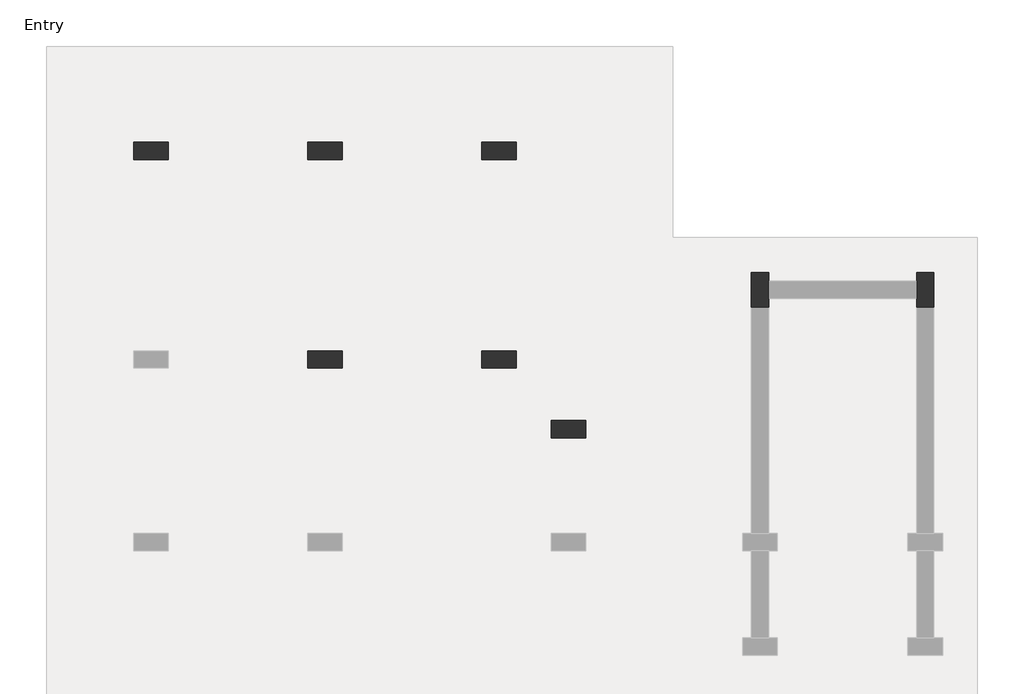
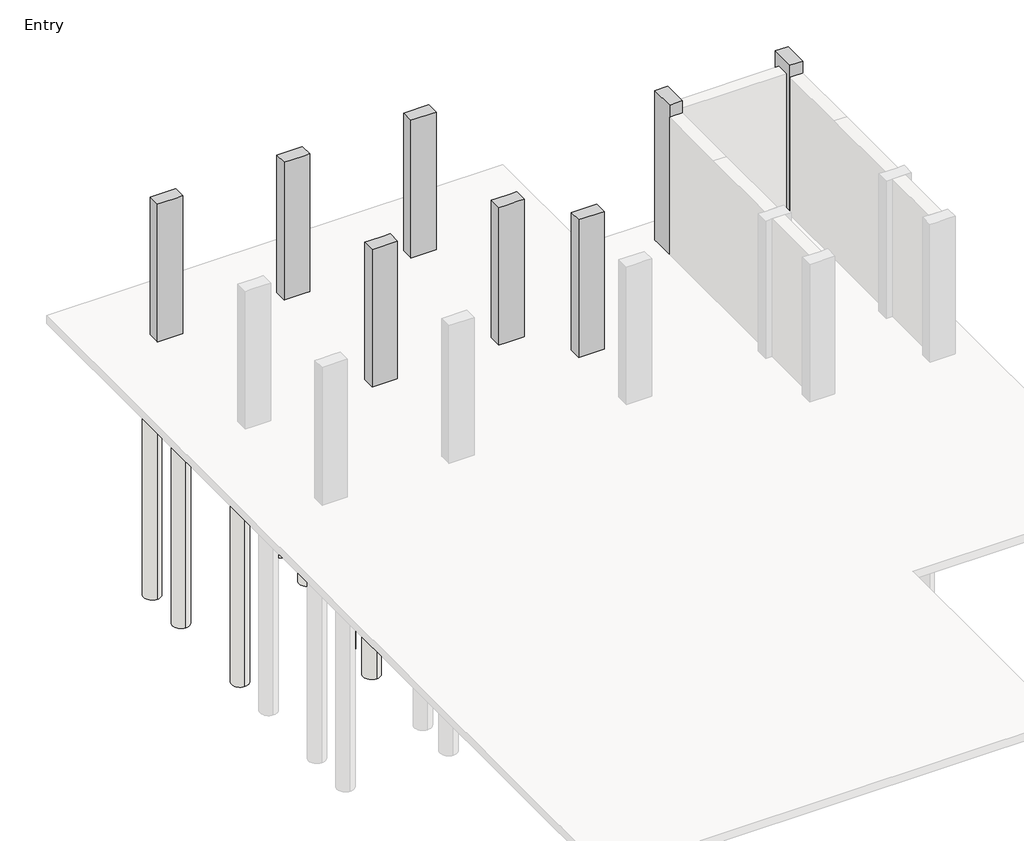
# One storey, part 3 of 3: 31 slabs, 16 columns, 3 footings.
"""IFC4 building model written with IfcOpenShell, lengths in millimetres."""

import ifcopenshell
import ifcopenshell.guid

model = None  # the IFC model being written
_history = None  # IfcOwnerHistory: only IFC2X3 demands one
_inside = {}  # id of a spatial element -> (the spatial element, [elements in it])
_under = {}  # id of a project, library or spatial element -> (it, [spatial elements below it])
_declared = {}  # id of a project -> (the project, [libraries it declares])
_typed = {}  # id of a type object -> (the type object, [elements of that type])
_made_of = {}  # id of a material, layer set ... -> (it, [elements and type objects made of it])


def new_model(schema):
    """Start an empty IFC model of exactly this schema.

    Asked for "IFC4X3", IfcOpenShell would pick the latest addendum, in which some entities
    have other attributes; the version numbers below select the first issue.
    IFC2X3 requires an IfcOwnerHistory on every rooted entity: one is made here for all.
    """
    global model, _history
    if schema == "IFC4X3":
        model = ifcopenshell.file(schema_version=(4, 3, 0, 0))
    else:
        model = ifcopenshell.file(schema=schema)
    _inside.clear()
    _under.clear()
    _declared.clear()
    _typed.clear()
    _made_of.clear()
    _history = None
    if model.schema == "IFC2X3":
        org = make("IfcOrganization", Name="unknown")
        user = make(
            "IfcPersonAndOrganization",
            ThePerson=make("IfcPerson", FamilyName="unknown"),
            TheOrganization=org,
        )
        app = make(
            "IfcApplication",
            ApplicationDeveloper=org,
            Version="unknown",
            ApplicationFullName="unknown",
            ApplicationIdentifier="unknown",
        )
        _history = make(
            "IfcOwnerHistory",
            OwningUser=user,
            OwningApplication=app,
            ChangeAction="ADDED",
            CreationDate=0,
        )
    return model


def make(cls, **values):
    """One entity of the class cls with the attributes given. An attribute that is None is left unset."""
    return model.create_entity(
        cls, **{name: value for name, value in values.items() if value is not None}
    )


def rooted(cls, **values):
    """An entity with a GlobalId (a new one), such as an element, a storey or a relation."""
    return make(cls, GlobalId=ifcopenshell.guid.new(), OwnerHistory=_history, **values)


def si_unit(unit_type, name, prefix=None):
    """IfcSIUnit, for example si_unit("LENGTHUNIT", "METRE", prefix="MILLI")."""
    return make("IfcSIUnit", UnitType=unit_type, Prefix=prefix, Name=name)


def assignment(units):
    """IfcUnitAssignment: the units of a project."""
    return None if units is None else make("IfcUnitAssignment", Units=units)


def point(xyz):
    """IfcCartesianPoint."""
    return None if xyz is None else make("IfcCartesianPoint", Coordinates=xyz)


def direction(xyz):
    """IfcDirection."""
    return None if xyz is None else make("IfcDirection", DirectionRatios=xyz)


def frame(location, z_axis=None, x_axis=None):
    """IfcAxis2Placement3D, a coordinate frame: its origin and axes. An axis left out is left unset."""
    return make(
        "IfcAxis2Placement3D",
        Location=point(location),
        Axis=direction(z_axis),
        RefDirection=direction(x_axis),
    )


def frame_2d(location, x_axis=None):
    """IfcAxis2Placement2D, a coordinate frame in the plane: its origin and x axis."""
    return make(
        "IfcAxis2Placement2D", Location=point(location), RefDirection=direction(x_axis)
    )


def origin():
    """The frame at (0, 0, 0) with its axes left unset."""
    return frame((0.0, 0.0, 0.0))


def place(relative_to, where):
    """IfcLocalPlacement: puts the frame where relative to a parent placement (None: the world)."""
    return make(
        "IfcLocalPlacement", PlacementRelTo=relative_to, RelativePlacement=where
    )


def context(
    kind, dimensions, precision=None, world=None, true_north=None, identifier=None
):
    """IfcGeometricRepresentationContext, for example the 3D "Model" context."""
    return make(
        "IfcGeometricRepresentationContext",
        ContextIdentifier=identifier,
        ContextType=kind,
        CoordinateSpaceDimension=dimensions,
        Precision=precision,
        WorldCoordinateSystem=world,
        TrueNorth=true_north,
    )


def project(units=None, contexts=None):
    """IfcProject with its units and contexts."""
    return rooted(
        "IfcProject",
        Name="project",
        RepresentationContexts=contexts,
        UnitsInContext=assignment(units),
    )


def spatial(cls, under=None, at=None, **own):
    """A site, building, storey or space (cls), placed at a placement, below another one or the project."""
    s = rooted(cls, ObjectPlacement=at, **own)
    if under is not None:
        _under.setdefault(under.id(), (under, []))[1].append(s)
    return s


def polyline(points):
    """IfcPolyline through the points."""
    return make("IfcPolyline", Points=[point(p) for p in points])


def circle_curve(where, radius):
    """IfcCircle in the frame where."""
    return make("IfcCircle", Position=where, Radius=radius)


def trimmed(basis, trim1, trim2, sense, master):
    """IfcTrimmedCurve: the piece of a basis curve between two trims."""
    return make(
        "IfcTrimmedCurve",
        BasisCurve=basis,
        Trim1=trim1,
        Trim2=trim2,
        SenseAgreement=sense,
        MasterRepresentation=master,
    )


def segment(curve, same_sense, transition):
    """IfcCompositeCurveSegment."""
    return make(
        "IfcCompositeCurveSegment",
        Transition=transition,
        SameSense=same_sense,
        ParentCurve=curve,
    )


def composite_curve(segments, self_intersect=None):
    """IfcCompositeCurve: segments joined end to end."""
    return make("IfcCompositeCurve", Segments=segments, SelfIntersect=self_intersect)


def outline(outer, holes=None, kind="AREA"):
    """IfcArbitraryClosedProfileDef: a profile drawn as a closed curve; with holes, ...WithVoids."""
    if holes is None:
        return make("IfcArbitraryClosedProfileDef", ProfileType=kind, OuterCurve=outer)
    return make(
        "IfcArbitraryProfileDefWithVoids",
        ProfileType=kind,
        OuterCurve=outer,
        InnerCurves=holes,
    )


def extrude(swept, where, along, depth):
    """IfcExtrudedAreaSolid: the profile swept, set in the frame where, extruded along a direction by depth."""
    return make(
        "IfcExtrudedAreaSolid",
        SweptArea=swept,
        Position=where,
        ExtrudedDirection=direction(along),
        Depth=depth,
    )


def faces_of(points, faces, orient=None, outer=None):
    """IfcFace entities. A face is a list of loops; a loop is a list of indices into points, from 0.

    orient and outer hold one flag for each loop. By default every Orientation is true, the
    first loop of a face is its IfcFaceOuterBound and the others are IfcFaceBound.
    """
    made = []
    for i, loops in enumerate(faces):
        bounds = []
        for j, loop in enumerate(loops):
            is_outer = j == 0 if outer is None else outer[i][j]
            bounds.append(
                make(
                    "IfcFaceOuterBound" if is_outer else "IfcFaceBound",
                    Bound=make("IfcPolyLoop", Polygon=[points[k] for k in loop]),
                    Orientation=True if orient is None else orient[i][j],
                )
            )
        made.append(make("IfcFace", Bounds=bounds))
    return made


def faceted_brep(points, faces, orient=None, outer=None, voids=None):
    """IfcFacetedBrep: a solid bounded by flat faces; with voids (closed shells), ...WithVoids."""
    shared = [point(p) for p in points]
    hull = make("IfcClosedShell", CfsFaces=faces_of(shared, faces, orient, outer))
    if voids is None:
        return make("IfcFacetedBrep", Outer=hull)
    return make(
        "IfcFacetedBrepWithVoids",
        Outer=hull,
        Voids=[
            make(cls, CfsFaces=faces_of(shared, fs, o, b)) for cls, fs, o, b in voids
        ],
    )


def shape(context_of_items, identifier, shape_type, items):
    """IfcShapeRepresentation: the items that make up one representation, for example the "Body"."""
    return make(
        "IfcShapeRepresentation",
        ContextOfItems=context_of_items,
        RepresentationIdentifier=identifier,
        RepresentationType=shape_type,
        Items=items,
    )


def made_of(thing, what):
    """Note that an element or type object is made of a material, layer set ...; save() writes the relation."""
    if what is not None:
        _made_of.setdefault(what.id(), (what, []))[1].append(thing)
    return thing


def element(
    cls,
    number,
    at=None,
    inside=None,
    cuts=None,
    type_object=None,
    material=None,
    context=None,
    identifier="Body",
    shape_type=None,
    held_by="IfcProductDefinitionShape",
    body=None,
    shapes=None,
    **own,
):
    """One element of the class cls, such as IfcWall. Its Tag is "e" and its number.

    at: its placement. inside: the storey or other place that contains it. cuts: it is an
    opening in that element (IfcRelVoidsElement). A single representation is given by context,
    identifier, shape_type and body (its items); several are given by shapes. held_by: the class
    of the entity that holds the representations. save() writes the other relations.
    """
    e = rooted(cls, Tag="e%d" % number, ObjectPlacement=at, **own)
    if body is not None:
        shapes = [shape(context, identifier, shape_type, body)]
    if shapes is not None:
        e.Representation = make(held_by, Representations=shapes)
    if inside is not None:
        _inside.setdefault(inside.id(), (inside, []))[1].append(e)
    if cuts is not None:
        rooted(
            "IfcRelVoidsElement", RelatingBuildingElement=cuts, RelatedOpeningElement=e
        )
    if type_object is not None:
        _typed.setdefault(type_object.id(), (type_object, []))[1].append(e)
    return made_of(e, material)


def aggregate(whole, parts):
    """IfcRelAggregates: a whole, such as a stair, and the parts it consists of."""
    return rooted("IfcRelAggregates", RelatingObject=whole, RelatedObjects=parts)


def save(model, path):
    """Write the relations noted so far, then the file.

    IfcRelAggregates (storeys below a building ...), IfcRelContainedInSpatialStructure (elements
    in a storey), IfcRelDefinesByType, IfcRelAssociatesMaterial and IfcRelDeclares: one each for
    every whole, place, type object, material and project.
    """
    for whole, parts in _under.values():
        aggregate(whole, parts)
    for where, things in _inside.values():
        rooted(
            "IfcRelContainedInSpatialStructure",
            RelatedElements=things,
            RelatingStructure=where,
        )
    for kind, things in _typed.values():
        rooted("IfcRelDefinesByType", RelatedObjects=things, RelatingType=kind)
    for what, things in _made_of.values():
        rooted("IfcRelAssociatesMaterial", RelatedObjects=things, RelatingMaterial=what)
    for by, libraries in _declared.values():
        rooted("IfcRelDeclares", RelatingContext=by, RelatedDefinitions=libraries)
    model.write(path)


model = new_model("IFC4")

# Units and contexts
model_context = context("Model", 3, world=origin())
ifc_project = project(units=[si_unit("LENGTHUNIT", "METRE", prefix="MILLI")], contexts=[model_context])

# Site, building, storey
site = spatial("IfcSite", under=ifc_project)
building = spatial("IfcBuilding", under=site)
storey = spatial("IfcBuildingStorey", under=building, Name="Entry", Elevation=0.0)

# Columns
placement = place(None, origin())
element("IfcColumn", 1, ObjectType="Concrete-Rectangular-Column : 12 x 24", at=placement, inside=storey, context=model_context, shape_type="Brep", body=[
    faceted_brep([(-15677.5554735, 14646.9867088, 0.0), (-15067.9554735, 14646.9867088, 0.0), (-15067.9554735, 14342.1867088, 0.0), (-15677.5554735, 14342.1867088, 0.0), (-15677.5554735, 14646.9867088, 3505.2), (-15067.9554735, 14646.9867088, 3505.2), (-15067.9554735, 14646.9867088, 2895.6), (-15067.9554735, 14342.1867088, 3505.2), (-15067.9554735, 14342.1867088, 2895.6), (-15220.3554735, 14342.1867088, 3505.2), (-15525.1554735, 14342.1867088, 3505.2), (-15677.5554735, 14342.1867088, 3505.2)], [[[0, 1, 2, 3]], [[4, 5, 6, 1, 0]], [[5, 7, 8, 2, 1, 6]], [[7, 9, 10, 11, 3, 2, 8]], [[11, 4, 0, 3]], [[4, 11, 10, 9, 7, 5]]]),
])
element("IfcColumn", 2, ObjectType="Concrete-Rectangular-Column : 12 x 24", at=placement, inside=storey, context=model_context, shape_type="Brep", body=[
    faceted_brep([(-12629.5554735, 14646.9867088, 0.0), (-12019.9554735, 14646.9867088, 0.0), (-12019.9554735, 14342.1867088, 0.0), (-12629.5554735, 14342.1867088, 0.0), (-12629.5554735, 14646.9867088, 3505.2), (-12019.9554735, 14646.9867088, 3505.2), (-12019.9554735, 14646.9867088, 2895.6), (-12629.5554735, 14646.9867088, 2895.6), (-12019.9554735, 14342.1867088, 3505.2), (-12019.9554735, 14342.1867088, 2895.6), (-12172.3554735, 14342.1867088, 3505.2), (-12477.1554735, 14342.1867088, 3505.2), (-12629.5554735, 14342.1867088, 3505.2), (-12629.5554735, 14342.1867088, 2895.6)], [[[0, 1, 2, 3]], [[4, 5, 6, 1, 0, 7]], [[5, 8, 9, 2, 1, 6]], [[8, 10, 11, 12, 13, 3, 2, 9]], [[12, 4, 7, 0, 3, 13]], [[4, 12, 11, 10, 8, 5]]]),
])
element("IfcColumn", 3, ObjectType="Concrete-Rectangular-Column : 12 x 24", at=placement, inside=storey, context=model_context, shape_type="Brep", body=[
    faceted_brep([(-9581.5554735, 14646.9867088, 0.0), (-8971.9554735, 14646.9867088, 0.0), (-8971.9554735, 14342.1867088, 0.0), (-9581.5554735, 14342.1867088, 0.0), (-9581.5554735, 14646.9867088, 3505.2), (-8971.9554735, 14646.9867088, 3505.2), (-9581.5554735, 14646.9867088, 2895.6), (-8971.9554735, 14342.1867088, 3505.2), (-9124.3554735, 14342.1867088, 3505.2), (-9429.1554735, 14342.1867088, 3505.2), (-9581.5554735, 14342.1867088, 3505.2), (-9581.5554735, 14342.1867088, 2895.6)], [[[0, 1, 2, 3]], [[4, 5, 1, 0, 6]], [[5, 7, 2, 1]], [[7, 8, 9, 10, 11, 3, 2]], [[10, 4, 6, 0, 3, 11]], [[4, 10, 9, 8, 7, 5]]]),
])
element("IfcColumn", 4, ObjectType="Concrete-Rectangular-Column : 12 x 24", at=placement, inside=storey, context=model_context, shape_type="Brep", body=[
    faceted_brep([(-12629.5554735, 10989.3867088, 0.0), (-12019.9554735, 10989.3867088, 0.0), (-12019.9554735, 10684.5867088, 0.0), (-12629.5554735, 10684.5867088, 0.0), (-12629.5554735, 10989.3867088, 3505.2), (-12477.1554735, 10989.3867088, 3505.2), (-12172.3554735, 10989.3867088, 3505.2), (-12019.9554735, 10989.3867088, 3505.2), (-12019.9554735, 10989.3867088, 2895.6), (-12629.5554735, 10989.3867088, 2895.6), (-12019.9554735, 10684.5867088, 3505.2), (-12019.9554735, 10684.5867088, 2895.6), (-12172.3554735, 10684.5867088, 3505.2), (-12477.1554735, 10684.5867088, 3505.2), (-12629.5554735, 10684.5867088, 3505.2), (-12629.5554735, 10684.5867088, 2895.6)], [[[0, 1, 2, 3]], [[4, 5, 6, 7, 8, 1, 0, 9]], [[7, 10, 11, 2, 1, 8]], [[10, 12, 13, 14, 15, 3, 2, 11]], [[14, 4, 9, 0, 3, 15]], [[4, 14, 13, 12, 10, 7, 6, 5]]]),
])
element("IfcColumn", 5, ObjectType="Concrete-Rectangular-Column : 12 x 24", at=placement, inside=storey, context=model_context, shape_type="Brep", body=[
    faceted_brep([(-9581.5554735, 10989.3867088, 0.0), (-8971.9554735, 10989.3867088, 0.0), (-8971.9554735, 10684.5867088, 0.0), (-9581.5554735, 10684.5867088, 0.0), (-9581.5554735, 10989.3867088, 3505.2), (-9429.1554735, 10989.3867088, 3505.2), (-9124.3554735, 10989.3867088, 3505.2), (-8971.9554735, 10989.3867088, 3505.2), (-9581.5554735, 10989.3867088, 2895.6), (-8971.9554735, 10684.5867088, 3505.2), (-9124.3554735, 10684.5867088, 3505.2), (-9429.1554735, 10684.5867088, 3505.2), (-9581.5554735, 10684.5867088, 3505.2), (-9581.5554735, 10684.5867088, 2895.6)], [[[0, 1, 2, 3]], [[4, 5, 6, 7, 1, 0, 8]], [[7, 9, 2, 1]], [[9, 10, 11, 12, 13, 3, 2]], [[12, 4, 8, 0, 3, 13]], [[4, 12, 11, 10, 9, 7, 6, 5]]]),
])
element("IfcColumn", 6, ObjectType="Concrete-Rectangular-Column : 12 x 24", at=placement, inside=storey, context=model_context, shape_type="Brep", body=[
    faceted_brep([(-8362.3554735, 9770.1867088, 0.0), (-7752.7554735, 9770.1867088, 0.0), (-7752.7554735, 9465.3867088, 0.0), (-8362.3554735, 9465.3867088, 0.0), (-8362.3554735, 9770.1867088, 3505.2), (-7752.7554735, 9770.1867088, 3505.2), (-8362.3554735, 9770.1867088, 2895.6), (-7752.7554735, 9465.3867088, 3505.2), (-7905.1554735, 9465.3867088, 3505.2), (-8209.9554735, 9465.3867088, 3505.2), (-8362.3554735, 9465.3867088, 3505.2), (-8362.3554735, 9465.3867088, 2895.6)], [[[0, 1, 2, 3]], [[4, 5, 1, 0, 6]], [[5, 7, 2, 1]], [[7, 8, 9, 10, 11, 3, 2]], [[10, 4, 6, 0, 3, 11]], [[4, 10, 9, 8, 7, 5]]]),
])
element("IfcColumn", 7, ObjectType="Concrete-Rectangular-Column : 12 x 24", at=placement, inside=storey, context=model_context, shape_type="Brep", body=[
    faceted_brep([(-4552.3554735, 12360.9867088, 0.0), (-4552.3554735, 12208.5867088, 0.0), (-4552.3554735, 11903.7867088, 0.0), (-4552.3554735, 11751.3867088, 0.0), (-4857.1554735, 11751.3867088, 0.0), (-4857.1554735, 12360.9867088, 0.0), (-4552.3554735, 12360.9867088, 3810.0), (-4552.3554735, 11751.3867088, 3810.0), (-4552.3554735, 11751.3867088, 3505.2), (-4857.1554735, 11751.3867088, 3810.0), (-4857.1554735, 11751.3867088, 3505.2), (-4857.1554735, 12360.9867088, 3810.0)], [[[0, 1, 2, 3, 4, 5]], [[6, 7, 8, 3, 2, 1, 0]], [[7, 9, 10, 4, 3, 8]], [[9, 11, 5, 4, 10]], [[11, 6, 0, 5]], [[6, 11, 9, 7]]]),
])
element("IfcColumn", 8, ObjectType="Concrete-Rectangular-Column : 12 x 24", at=placement, inside=storey, context=model_context, shape_type="Brep", body=[
    faceted_brep([(-1656.7554735, 12360.9867088, 0.0), (-1656.7554735, 11751.3867088, 0.0), (-1961.5554735, 11751.3867088, 0.0), (-1961.5554735, 11903.7867088, 0.0), (-1961.5554735, 12208.5867088, 0.0), (-1961.5554735, 12360.9867088, 0.0), (-1656.7554735, 12360.9867088, 3810.0), (-1656.7554735, 11751.3867088, 3810.0), (-1656.7554735, 11751.3867088, 3505.2), (-1961.5554735, 11751.3867088, 3810.0), (-1961.5554735, 11751.3867088, 3505.2), (-1961.5554735, 12360.9867088, 3810.0)], [[[0, 1, 2, 3, 4, 5]], [[6, 7, 8, 1, 0]], [[7, 9, 10, 2, 1, 8]], [[9, 11, 5, 4, 3, 2, 10]], [[11, 6, 0, 5]], [[6, 11, 9, 7]]]),
])
element("IfcColumn", 9, ObjectType="Concrete-Rectangular-Column : 12 x 24", at=placement, inside=storey, context=model_context, shape_type="Brep", body=[
    faceted_brep([(-15677.5554735, 14646.9867088, 0.0), (-15067.9554735, 14646.9867088, 0.0), (-15067.9554735, 14342.1867088, 0.0), (-15677.5554735, 14342.1867088, 0.0), (-15677.5554735, 14646.9867088, 3505.2), (-15067.9554735, 14646.9867088, 3505.2), (-15067.9554735, 14646.9867088, 2895.6), (-15067.9554735, 14342.1867088, 3505.2), (-15067.9554735, 14342.1867088, 2895.6), (-15220.3554735, 14342.1867088, 3505.2), (-15525.1554735, 14342.1867088, 3505.2), (-15677.5554735, 14342.1867088, 3505.2)], [[[0, 1, 2, 3]], [[4, 5, 6, 1, 0]], [[5, 7, 8, 2, 1, 6]], [[7, 9, 10, 11, 3, 2, 8]], [[11, 4, 0, 3]], [[4, 11, 10, 9, 7, 5]]]),
])
element("IfcColumn", 10, ObjectType="Concrete-Rectangular-Column : 12 x 24", at=placement, inside=storey, context=model_context, shape_type="Brep", body=[
    faceted_brep([(-12629.5554735, 14646.9867088, 0.0), (-12019.9554735, 14646.9867088, 0.0), (-12019.9554735, 14342.1867088, 0.0), (-12629.5554735, 14342.1867088, 0.0), (-12629.5554735, 14646.9867088, 3505.2), (-12019.9554735, 14646.9867088, 3505.2), (-12019.9554735, 14646.9867088, 2895.6), (-12629.5554735, 14646.9867088, 2895.6), (-12019.9554735, 14342.1867088, 3505.2), (-12019.9554735, 14342.1867088, 2895.6), (-12172.3554735, 14342.1867088, 3505.2), (-12477.1554735, 14342.1867088, 3505.2), (-12629.5554735, 14342.1867088, 3505.2), (-12629.5554735, 14342.1867088, 2895.6)], [[[0, 1, 2, 3]], [[4, 5, 6, 1, 0, 7]], [[5, 8, 9, 2, 1, 6]], [[8, 10, 11, 12, 13, 3, 2, 9]], [[12, 4, 7, 0, 3, 13]], [[4, 12, 11, 10, 8, 5]]]),
])
element("IfcColumn", 11, ObjectType="Concrete-Rectangular-Column : 12 x 24", at=placement, inside=storey, context=model_context, shape_type="Brep", body=[
    faceted_brep([(-9581.5554735, 14646.9867088, 0.0), (-8971.9554735, 14646.9867088, 0.0), (-8971.9554735, 14342.1867088, 0.0), (-9581.5554735, 14342.1867088, 0.0), (-9581.5554735, 14646.9867088, 3505.2), (-8971.9554735, 14646.9867088, 3505.2), (-9581.5554735, 14646.9867088, 2895.6), (-8971.9554735, 14342.1867088, 3505.2), (-9124.3554735, 14342.1867088, 3505.2), (-9429.1554735, 14342.1867088, 3505.2), (-9581.5554735, 14342.1867088, 3505.2), (-9581.5554735, 14342.1867088, 2895.6)], [[[0, 1, 2, 3]], [[4, 5, 1, 0, 6]], [[5, 7, 2, 1]], [[7, 8, 9, 10, 11, 3, 2]], [[10, 4, 6, 0, 3, 11]], [[4, 10, 9, 8, 7, 5]]]),
])
element("IfcColumn", 12, ObjectType="Concrete-Rectangular-Column : 12 x 24", at=placement, inside=storey, context=model_context, shape_type="Brep", body=[
    faceted_brep([(-15677.5554735, 10989.3867088, 0.0), (-15067.9554735, 10989.3867088, 0.0), (-15067.9554735, 10684.5867088, 0.0), (-15677.5554735, 10684.5867088, 0.0), (-15677.5554735, 10989.3867088, 3505.2), (-15525.1554735, 10989.3867088, 3505.2), (-15220.3554735, 10989.3867088, 3505.2), (-15067.9554735, 10989.3867088, 3505.2), (-15067.9554735, 10989.3867088, 2895.6), (-15067.9554735, 10684.5867088, 3505.2), (-15067.9554735, 10684.5867088, 2895.6), (-15220.3554735, 10684.5867088, 3505.2), (-15525.1554735, 10684.5867088, 3505.2), (-15677.5554735, 10684.5867088, 3505.2)], [[[0, 1, 2, 3]], [[4, 5, 6, 7, 8, 1, 0]], [[7, 9, 10, 2, 1, 8]], [[9, 11, 12, 13, 3, 2, 10]], [[13, 4, 0, 3]], [[4, 13, 12, 11, 9, 7, 6, 5]]]),
])
element("IfcColumn", 13, ObjectType="Concrete-Rectangular-Column : 12 x 24", at=placement, inside=storey, context=model_context, shape_type="Brep", body=[
    faceted_brep([(-12629.5554735, 10989.3867088, 0.0), (-12019.9554735, 10989.3867088, 0.0), (-12019.9554735, 10684.5867088, 0.0), (-12629.5554735, 10684.5867088, 0.0), (-12629.5554735, 10989.3867088, 3505.2), (-12477.1554735, 10989.3867088, 3505.2), (-12172.3554735, 10989.3867088, 3505.2), (-12019.9554735, 10989.3867088, 3505.2), (-12019.9554735, 10989.3867088, 2895.6), (-12629.5554735, 10989.3867088, 2895.6), (-12019.9554735, 10684.5867088, 3505.2), (-12019.9554735, 10684.5867088, 2895.6), (-12172.3554735, 10684.5867088, 3505.2), (-12477.1554735, 10684.5867088, 3505.2), (-12629.5554735, 10684.5867088, 3505.2), (-12629.5554735, 10684.5867088, 2895.6)], [[[0, 1, 2, 3]], [[4, 5, 6, 7, 8, 1, 0, 9]], [[7, 10, 11, 2, 1, 8]], [[10, 12, 13, 14, 15, 3, 2, 11]], [[14, 4, 9, 0, 3, 15]], [[4, 14, 13, 12, 10, 7, 6, 5]]]),
])
element("IfcColumn", 14, ObjectType="Concrete-Rectangular-Column : 12 x 24", at=placement, inside=storey, context=model_context, shape_type="Brep", body=[
    faceted_brep([(-9581.5554735, 10989.3867088, 0.0), (-8971.9554735, 10989.3867088, 0.0), (-8971.9554735, 10684.5867088, 0.0), (-9581.5554735, 10684.5867088, 0.0), (-9581.5554735, 10989.3867088, 3505.2), (-9429.1554735, 10989.3867088, 3505.2), (-9124.3554735, 10989.3867088, 3505.2), (-8971.9554735, 10989.3867088, 3505.2), (-9581.5554735, 10989.3867088, 2895.6), (-8971.9554735, 10684.5867088, 3505.2), (-9124.3554735, 10684.5867088, 3505.2), (-9429.1554735, 10684.5867088, 3505.2), (-9581.5554735, 10684.5867088, 3505.2), (-9581.5554735, 10684.5867088, 2895.6)], [[[0, 1, 2, 3]], [[4, 5, 6, 7, 1, 0, 8]], [[7, 9, 2, 1]], [[9, 10, 11, 12, 13, 3, 2]], [[12, 4, 8, 0, 3, 13]], [[4, 12, 11, 10, 9, 7, 6, 5]]]),
])
element("IfcColumn", 15, ObjectType="Concrete-Rectangular-Column : 12 x 24", at=placement, inside=storey, context=model_context, shape_type="Brep", body=[
    faceted_brep([(-8362.3554735, 9770.1867088, 0.0), (-7752.7554735, 9770.1867088, 0.0), (-7752.7554735, 9465.3867088, 0.0), (-8362.3554735, 9465.3867088, 0.0), (-8362.3554735, 9770.1867088, 3505.2), (-7752.7554735, 9770.1867088, 3505.2), (-8362.3554735, 9770.1867088, 2895.6), (-7752.7554735, 9465.3867088, 3505.2), (-7905.1554735, 9465.3867088, 3505.2), (-8209.9554735, 9465.3867088, 3505.2), (-8362.3554735, 9465.3867088, 3505.2), (-8362.3554735, 9465.3867088, 2895.6)], [[[0, 1, 2, 3]], [[4, 5, 1, 0, 6]], [[5, 7, 2, 1]], [[7, 8, 9, 10, 11, 3, 2]], [[10, 4, 6, 0, 3, 11]], [[4, 10, 9, 8, 7, 5]]]),
])
element("IfcColumn", 16, ObjectType="Concrete-Rectangular-Column : 12 x 24", at=placement, inside=storey, context=model_context, shape_type="Brep", body=[
    faceted_brep([(-4552.3554735, 12360.9867088, 0.0), (-4552.3554735, 12208.5867088, 0.0), (-4552.3554735, 11903.7867088, 0.0), (-4552.3554735, 11751.3867088, 0.0), (-4857.1554735, 11751.3867088, 0.0), (-4857.1554735, 12360.9867088, 0.0), (-4552.3554735, 12360.9867088, 3810.0), (-4552.3554735, 11751.3867088, 3810.0), (-4552.3554735, 11751.3867088, 3505.2), (-4857.1554735, 11751.3867088, 3810.0), (-4857.1554735, 11751.3867088, 3505.2), (-4857.1554735, 12360.9867088, 3810.0)], [[[0, 1, 2, 3, 4, 5]], [[6, 7, 8, 3, 2, 1, 0]], [[7, 9, 10, 4, 3, 8]], [[9, 11, 5, 4, 10]], [[11, 6, 0, 5]], [[6, 11, 9, 7]]]),
])

# Footings
element("IfcFooting", 17, ObjectType="Bearing Footing - 36\" x 12\"", at=placement, inside=storey, context=model_context, shape_type="Brep", body=[
    faceted_brep([(-4552.3554735, 12513.3867088, -304.8), (-4552.3554735, 12462.5867088, -304.8), (-4552.3554735, 12462.5867088, -203.2), (-4552.3554735, 12513.3867088, -203.2), (-4552.3554735, 11649.7867088, -304.8), (-4552.3554735, 11598.9867088, -304.8), (-4552.3554735, 11598.9867088, -203.2), (-4552.3554735, 11649.7867088, -203.2), (-1961.5554735, 12462.5867088, -304.8), (-1961.5554735, 12513.3867088, -304.8), (-1961.5554735, 12513.3867088, -203.2), (-1961.5554735, 12462.5867088, -203.2), (-1961.5554735, 11598.9867088, -304.8), (-1961.5554735, 11649.7867088, -304.8), (-1961.5554735, 11649.7867088, -203.2), (-1961.5554735, 11598.9867088, -203.2), (-2710.8554735, 12462.5867088, -304.8), (-2710.8554735, 11649.7867088, -304.8), (-2266.3554735, 11598.9867088, -304.8), (-4247.5554735, 11598.9867088, -304.8), (-3803.0554735, 11649.7867088, -304.8), (-3803.0554735, 12462.5867088, -304.8), (-2266.3554735, 11598.9867088, -203.2), (-4247.5554735, 11598.9867088, -203.2), (-3803.0554735, 12462.5867088, -203.2), (-3803.0554735, 11649.7867088, -203.2), (-2710.8554735, 11649.7867088, -203.2), (-2710.8554735, 12462.5867088, -203.2)], [[[0, 1, 2, 3]], [[4, 5, 6, 7]], [[8, 9, 10, 11]], [[12, 13, 14, 15]], [[9, 0, 3, 10]], [[0, 9, 8, 16, 17, 13, 12, 18, 19, 5, 4, 20, 21, 1]], [[5, 19, 18, 12, 15, 22, 23, 6]], [[3, 2, 24, 25, 7, 6, 23, 22, 15, 14, 26, 27, 11, 10]], [[1, 21, 24, 2]], [[20, 4, 7, 25]], [[21, 20, 25, 24]], [[16, 8, 11, 27]], [[17, 16, 27, 26]], [[13, 17, 26, 14]]]),
])
element("IfcFooting", 18, ObjectType="Bearing Footing - 36\" x 12\"", at=placement, inside=storey, context=model_context, shape_type="SweptSolid", body=[
    extrude(outline(polyline([(-1351.9554735, 11649.7867088), (-1351.9554735, 7788.9867088), (-1402.7554735, 7788.9867088), (-1402.7554735, 8538.2867088), (-2215.5554735, 8538.2867088), (-2215.5554735, 7788.9867088), (-2266.3554735, 7788.9867088), (-2266.3554735, 11598.9867088), (-1961.5554735, 11598.9867088), (-1961.5554735, 11649.7867088), (-1351.9554735, 11649.7867088)])), frame((0.0, 0.0, -304.8), z_axis=(0.0, 0.0, 1.0), x_axis=(1.0, 0.0, 0.0)), (0.0, 0.0, 1.0), 101.6),
])
element("IfcFooting", 19, ObjectType="Bearing Footing - 36\" x 12\"", at=placement, inside=storey, context=model_context, shape_type="SweptSolid", body=[
    extrude(outline(polyline([(-5161.9554735, 7788.9867088), (-5161.9554735, 11649.7867088), (-4552.3554735, 11649.7867088), (-4552.3554735, 11598.9867088), (-4247.5554735, 11598.9867088), (-4247.5554735, 7788.9867088), (-4298.3554735, 7788.9867088), (-4298.3554735, 8538.2867088), (-5111.1554735, 8538.2867088), (-5111.1554735, 7788.9867088), (-5161.9554735, 7788.9867088)])), frame((0.0, 0.0, -304.8), z_axis=(0.0, 0.0, 1.0), x_axis=(1.0, 0.0, 0.0)), (0.0, 0.0, 1.0), 101.6),
])

# Slabs
element("IfcSlab", 20, ObjectType="Pile Cap-2 Pile : 31\"x61\"x35\"", at=placement, inside=storey, context=model_context, shape_type="SweptSolid", body=[
    extrude(outline(polyline([(-15779.1554735, 15396.2867088), (-14966.3554735, 15396.2867088), (-14966.3554735, 13592.8867088), (-15779.1554735, 13592.8867088), (-15779.1554735, 15396.2867088)])), frame((0.0, 0.0, -889.0), z_axis=(0.0, 0.0, 1.0), x_axis=(1.0, 0.0, 0.0)), (0.0, 0.0, 1.0), 685.8),
])
element("IfcSlab", 21, ObjectType="Pile Cap-2 Pile : 31\"x61\"x35\"", at=placement, inside=storey, context=model_context, shape_type="SweptSolid", body=[
    extrude(outline(polyline([(-12731.1554735, 15396.2867088), (-11918.3554735, 15396.2867088), (-11918.3554735, 13592.8867088), (-12731.1554735, 13592.8867088), (-12731.1554735, 15396.2867088)])), frame((0.0, 0.0, -889.0), z_axis=(0.0, 0.0, 1.0), x_axis=(1.0, 0.0, 0.0)), (0.0, 0.0, 1.0), 685.8),
])
element("IfcSlab", 22, ObjectType="Pile Cap-2 Pile : 31\"x61\"x35\"", at=placement, inside=storey, context=model_context, shape_type="SweptSolid", body=[
    extrude(outline(polyline([(-9683.1554735, 15396.2867088), (-8870.3554735, 15396.2867088), (-8870.3554735, 13592.8867088), (-9683.1554735, 13592.8867088), (-9683.1554735, 15396.2867088)])), frame((0.0, 0.0, -889.0), z_axis=(0.0, 0.0, 1.0), x_axis=(1.0, 0.0, 0.0)), (0.0, 0.0, 1.0), 685.8),
])
element("IfcSlab", 23, ObjectType="Pile Cap-2 Pile : 31\"x61\"x35\"", at=placement, inside=storey, context=model_context, shape_type="Brep", body=[
    faceted_brep([(-9683.1554735, 11738.6867088, -889.0), (-8870.3554735, 11738.6867088, -889.0), (-8870.3554735, 10024.1867088, -889.0), (-8870.3554735, 9935.2867088, -889.0), (-8959.2554735, 9935.2867088, -889.0), (-9683.1554735, 9935.2867088, -889.0), (-9683.1554735, 9935.2867088, -203.2), (-9683.1554735, 11738.6867088, -203.2), (-8870.3554735, 9935.2867088, -203.2), (-8959.2554735, 9935.2867088, -203.2), (-8870.3554735, 11738.6867088, -203.2), (-8870.3554735, 10024.1867088, -203.2)], [[[0, 1, 2, 3, 4, 5]], [[0, 5, 6, 7]], [[5, 4, 3, 8, 9, 6]], [[3, 2, 1, 10, 11, 8]], [[1, 0, 7, 10]], [[7, 6, 9, 8, 11, 10]]]),
])
element("IfcSlab", 24, ObjectType="Pile Cap-2 Pile : 31\"x61\"x35\"", at=placement, inside=storey, context=model_context, shape_type="Brep", body=[
    faceted_brep([(-3803.0554735, 12462.5867088, -889.0), (-3803.0554735, 11649.7867088, -889.0), (-5606.4554735, 11649.7867088, -889.0), (-5606.4554735, 12462.5867088, -889.0), (-5606.4554735, 12462.5867088, -203.2), (-4552.3554735, 12462.5867088, -203.2), (-3803.0554735, 12462.5867088, -203.2), (-3803.0554735, 12462.5867088, -304.8), (-5606.4554735, 11649.7867088, -203.2), (-3803.0554735, 11649.7867088, -304.8), (-3803.0554735, 11649.7867088, -203.2), (-4552.3554735, 11649.7867088, -203.2), (-5161.9554735, 11649.7867088, -203.2)], [[[0, 1, 2, 3]], [[0, 3, 4, 5, 6, 7]], [[3, 2, 8, 4]], [[2, 1, 9, 10, 11, 12, 8]], [[1, 0, 7, 6, 10, 9]], [[6, 5, 4, 8, 12, 11, 10]]]),
])
element("IfcSlab", 25, ObjectType="Pile Cap-2 Pile : 31\"x61\"x35\"", at=placement, inside=storey, context=model_context, shape_type="Brep", body=[
    faceted_brep([(-907.4554735, 12462.5867088, -889.0), (-907.4554735, 11649.7867088, -889.0), (-2710.8554735, 11649.7867088, -889.0), (-2710.8554735, 12462.5867088, -889.0), (-2710.8554735, 12462.5867088, -304.8), (-2710.8554735, 12462.5867088, -203.2), (-1961.5554735, 12462.5867088, -203.2), (-907.4554735, 12462.5867088, -203.2), (-2710.8554735, 11649.7867088, -304.8), (-2710.8554735, 11649.7867088, -203.2), (-907.4554735, 11649.7867088, -203.2), (-1351.9554735, 11649.7867088, -203.2), (-1961.5554735, 11649.7867088, -203.2)], [[[0, 1, 2, 3]], [[0, 3, 4, 5, 6, 7]], [[3, 2, 8, 9, 5, 4]], [[2, 1, 10, 11, 12, 9, 8]], [[1, 0, 7, 10]], [[7, 6, 5, 9, 12, 11, 10]]]),
])
element("IfcSlab", 26, ObjectType="Pile Cap-2 Pile : 31\"x61\"x35\"", at=placement, inside=storey, context=model_context, shape_type="SweptSolid", body=[
    extrude(outline(polyline([(-7155.8554735, 10024.1867088), (-7155.8554735, 9211.3867088), (-8959.2554735, 9211.3867088), (-8959.2554735, 9935.2867088), (-8870.3554735, 9935.2867088), (-8870.3554735, 10024.1867088), (-7155.8554735, 10024.1867088)])), frame((0.0, 0.0, -889.0), z_axis=(0.0, 0.0, 1.0), x_axis=(1.0, 0.0, 0.0)), (0.0, 0.0, 1.0), 685.8),
])
element("IfcSlab", 27, ObjectType="Pile Cap-4 Pile : 72\"x72\"x35\"", at=placement, inside=storey, context=model_context, shape_type="SweptSolid", body=[
    extrude(outline(polyline([(-13239.1554735, 11751.3867088), (-11410.3554735, 11751.3867088), (-11410.3554735, 9922.5867088), (-13239.1554735, 9922.5867088), (-13239.1554735, 11751.3867088)])), frame((0.0, 0.0, -889.0), z_axis=(0.0, 0.0, 1.0), x_axis=(1.0, 0.0, 0.0)), (0.0, 0.0, 1.0), 685.8),
])
element("IfcSlab", 28, ObjectType="Pile-Steel Pipe : 16\" Diameter", at=placement, inside=storey, context=model_context, shape_type="SweptSolid", body=[
    extrude(outline(composite_curve([segment(trimmed(circle_curve(frame_2d((-12858.1554735, 10303.5867088)), 203.2), [point((-12858.1554735, 10100.3867088))], [point((-12858.1554735, 10506.7867088))], False, "CARTESIAN"), True, "CONTINUOUS"), segment(trimmed(circle_curve(frame_2d((-12858.1554735, 10303.5867088)), 203.2), [point((-12858.1554735, 10506.7867088))], [point((-12858.1554735, 10100.3867088))], False, "CARTESIAN"), True, "CONTINUOUS")], self_intersect=False)), frame((0.0, 0.0, -6985.0), z_axis=(0.0, 0.0, 1.0), x_axis=(1.0, 0.0, 0.0)), (0.0, 0.0, 1.0), 6096.0),
])
element("IfcSlab", 29, ObjectType="Pile-Steel Pipe : 16\" Diameter", at=placement, inside=storey, context=model_context, shape_type="SweptSolid", body=[
    extrude(outline(composite_curve([segment(trimmed(circle_curve(frame_2d((-11791.3554735, 10303.5867088)), 203.2), [point((-11791.3554735, 10100.3867088))], [point((-11791.3554735, 10506.7867088))], False, "CARTESIAN"), True, "CONTINUOUS"), segment(trimmed(circle_curve(frame_2d((-11791.3554735, 10303.5867088)), 203.2), [point((-11791.3554735, 10506.7867088))], [point((-11791.3554735, 10100.3867088))], False, "CARTESIAN"), True, "CONTINUOUS")], self_intersect=False)), frame((0.0, 0.0, -6985.0), z_axis=(0.0, 0.0, 1.0), x_axis=(1.0, 0.0, 0.0)), (0.0, 0.0, 1.0), 6096.0),
])
element("IfcSlab", 30, ObjectType="Pile-Steel Pipe : 16\" Diameter", at=placement, inside=storey, context=model_context, shape_type="SweptSolid", body=[
    extrude(outline(composite_curve([segment(trimmed(circle_curve(frame_2d((-11791.3554735, 11370.3867088)), 203.2), [point((-11791.3554735, 11167.1867088))], [point((-11791.3554735, 11573.5867088))], False, "CARTESIAN"), True, "CONTINUOUS"), segment(trimmed(circle_curve(frame_2d((-11791.3554735, 11370.3867088)), 203.2), [point((-11791.3554735, 11573.5867088))], [point((-11791.3554735, 11167.1867088))], False, "CARTESIAN"), True, "CONTINUOUS")], self_intersect=False)), frame((0.0, 0.0, -6985.0), z_axis=(0.0, 0.0, 1.0), x_axis=(1.0, 0.0, 0.0)), (0.0, 0.0, 1.0), 6096.0),
])
element("IfcSlab", 31, ObjectType="Pile-Steel Pipe : 16\" Diameter", at=placement, inside=storey, context=model_context, shape_type="SweptSolid", body=[
    extrude(outline(composite_curve([segment(trimmed(circle_curve(frame_2d((-12858.1554735, 11370.3867088)), 203.2), [point((-12858.1554735, 11167.1867088))], [point((-12858.1554735, 11573.5867088))], False, "CARTESIAN"), True, "CONTINUOUS"), segment(trimmed(circle_curve(frame_2d((-12858.1554735, 11370.3867088)), 203.2), [point((-12858.1554735, 11573.5867088))], [point((-12858.1554735, 11167.1867088))], False, "CARTESIAN"), True, "CONTINUOUS")], self_intersect=False)), frame((0.0, 0.0, -6985.0), z_axis=(0.0, 0.0, 1.0), x_axis=(1.0, 0.0, 0.0)), (0.0, 0.0, 1.0), 6096.0),
])
element("IfcSlab", 32, ObjectType="Pile-Steel Pipe : 16\" Diameter", at=placement, inside=storey, context=model_context, shape_type="SweptSolid", body=[
    extrude(outline(composite_curve([segment(trimmed(circle_curve(frame_2d((-11791.3554735, 8169.9867088)), 203.2), [point((-11791.3554735, 7966.7867088))], [point((-11791.3554735, 8373.1867088))], False, "CARTESIAN"), True, "CONTINUOUS"), segment(trimmed(circle_curve(frame_2d((-11791.3554735, 8169.9867088)), 203.2), [point((-11791.3554735, 8373.1867088))], [point((-11791.3554735, 7966.7867088))], False, "CARTESIAN"), True, "CONTINUOUS")], self_intersect=False)), frame((0.0, 0.0, -6985.0), z_axis=(0.0, 0.0, 1.0), x_axis=(1.0, 0.0, 0.0)), (0.0, 0.0, 1.0), 6096.0),
])
element("IfcSlab", 33, ObjectType="Pile-Steel Pipe : 16\" Diameter", at=placement, inside=storey, context=model_context, shape_type="SweptSolid", body=[
    extrude(outline(composite_curve([segment(trimmed(circle_curve(frame_2d((-15372.7554735, 15091.4867088)), 203.2), [point((-15372.7554735, 14888.2867088))], [point((-15372.7554735, 15294.6867088))], False, "CARTESIAN"), True, "CONTINUOUS"), segment(trimmed(circle_curve(frame_2d((-15372.7554735, 15091.4867088)), 203.2), [point((-15372.7554735, 15294.6867088))], [point((-15372.7554735, 14888.2867088))], False, "CARTESIAN"), True, "CONTINUOUS")], self_intersect=False)), frame((0.0, 0.0, -6985.0), z_axis=(0.0, 0.0, 1.0), x_axis=(1.0, 0.0, 0.0)), (0.0, 0.0, 1.0), 6096.0),
])
element("IfcSlab", 34, ObjectType="Pile-Steel Pipe : 16\" Diameter", at=placement, inside=storey, context=model_context, shape_type="SweptSolid", body=[
    extrude(outline(composite_curve([segment(trimmed(circle_curve(frame_2d((-15372.7554735, 13897.6867088)), 203.2), [point((-15372.7554735, 13694.4867088))], [point((-15372.7554735, 14100.8867088))], False, "CARTESIAN"), True, "CONTINUOUS"), segment(trimmed(circle_curve(frame_2d((-15372.7554735, 13897.6867088)), 203.2), [point((-15372.7554735, 14100.8867088))], [point((-15372.7554735, 13694.4867088))], False, "CARTESIAN"), True, "CONTINUOUS")], self_intersect=False)), frame((0.0, 0.0, -6985.0), z_axis=(0.0, 0.0, 1.0), x_axis=(1.0, 0.0, 0.0)), (0.0, 0.0, 1.0), 6096.0),
])
element("IfcSlab", 35, ObjectType="Pile-Steel Pipe : 16\" Diameter", at=placement, inside=storey, context=model_context, shape_type="SweptSolid", body=[
    extrude(outline(composite_curve([segment(trimmed(circle_curve(frame_2d((-12324.7554735, 15091.4867088)), 203.2), [point((-12324.7554735, 14888.2867088))], [point((-12324.7554735, 15294.6867088))], False, "CARTESIAN"), True, "CONTINUOUS"), segment(trimmed(circle_curve(frame_2d((-12324.7554735, 15091.4867088)), 203.2), [point((-12324.7554735, 15294.6867088))], [point((-12324.7554735, 14888.2867088))], False, "CARTESIAN"), True, "CONTINUOUS")], self_intersect=False)), frame((0.0, 0.0, -6985.0), z_axis=(0.0, 0.0, 1.0), x_axis=(1.0, 0.0, 0.0)), (0.0, 0.0, 1.0), 6096.0),
])
element("IfcSlab", 36, ObjectType="Pile-Steel Pipe : 16\" Diameter", at=placement, inside=storey, context=model_context, shape_type="SweptSolid", body=[
    extrude(outline(composite_curve([segment(trimmed(circle_curve(frame_2d((-12324.7554735, 13897.6867088)), 203.2), [point((-12324.7554735, 13694.4867088))], [point((-12324.7554735, 14100.8867088))], False, "CARTESIAN"), True, "CONTINUOUS"), segment(trimmed(circle_curve(frame_2d((-12324.7554735, 13897.6867088)), 203.2), [point((-12324.7554735, 14100.8867088))], [point((-12324.7554735, 13694.4867088))], False, "CARTESIAN"), True, "CONTINUOUS")], self_intersect=False)), frame((0.0, 0.0, -6985.0), z_axis=(0.0, 0.0, 1.0), x_axis=(1.0, 0.0, 0.0)), (0.0, 0.0, 1.0), 6096.0),
])
element("IfcSlab", 37, ObjectType="Pile-Steel Pipe : 16\" Diameter", at=placement, inside=storey, context=model_context, shape_type="SweptSolid", body=[
    extrude(outline(composite_curve([segment(trimmed(circle_curve(frame_2d((-9276.7554735, 15091.4867088)), 203.2), [point((-9276.7554735, 14888.2867088))], [point((-9276.7554735, 15294.6867088))], False, "CARTESIAN"), True, "CONTINUOUS"), segment(trimmed(circle_curve(frame_2d((-9276.7554735, 15091.4867088)), 203.2), [point((-9276.7554735, 15294.6867088))], [point((-9276.7554735, 14888.2867088))], False, "CARTESIAN"), True, "CONTINUOUS")], self_intersect=False)), frame((0.0, 0.0, -6985.0), z_axis=(0.0, 0.0, 1.0), x_axis=(1.0, 0.0, 0.0)), (0.0, 0.0, 1.0), 6096.0),
])
element("IfcSlab", 38, ObjectType="Pile-Steel Pipe : 16\" Diameter", at=placement, inside=storey, context=model_context, shape_type="SweptSolid", body=[
    extrude(outline(composite_curve([segment(trimmed(circle_curve(frame_2d((-9276.7554735, 13897.6867088)), 203.2), [point((-9276.7554735, 13694.4867088))], [point((-9276.7554735, 14100.8867088))], False, "CARTESIAN"), True, "CONTINUOUS"), segment(trimmed(circle_curve(frame_2d((-9276.7554735, 13897.6867088)), 203.2), [point((-9276.7554735, 14100.8867088))], [point((-9276.7554735, 13694.4867088))], False, "CARTESIAN"), True, "CONTINUOUS")], self_intersect=False)), frame((0.0, 0.0, -6985.0), z_axis=(0.0, 0.0, 1.0), x_axis=(1.0, 0.0, 0.0)), (0.0, 0.0, 1.0), 6096.0),
])
element("IfcSlab", 39, ObjectType="Pile-Steel Pipe : 16\" Diameter", at=placement, inside=storey, context=model_context, shape_type="SweptSolid", body=[
    extrude(outline(composite_curve([segment(trimmed(circle_curve(frame_2d((-15372.7554735, 11433.8867088)), 203.2), [point((-15372.7554735, 11230.6867088))], [point((-15372.7554735, 11637.0867088))], False, "CARTESIAN"), True, "CONTINUOUS"), segment(trimmed(circle_curve(frame_2d((-15372.7554735, 11433.8867088)), 203.2), [point((-15372.7554735, 11637.0867088))], [point((-15372.7554735, 11230.6867088))], False, "CARTESIAN"), True, "CONTINUOUS")], self_intersect=False)), frame((0.0, 0.0, -6985.0), z_axis=(0.0, 0.0, 1.0), x_axis=(1.0, 0.0, 0.0)), (0.0, 0.0, 1.0), 6096.0),
])
element("IfcSlab", 40, ObjectType="Pile-Steel Pipe : 16\" Diameter", at=placement, inside=storey, context=model_context, shape_type="SweptSolid", body=[
    extrude(outline(composite_curve([segment(trimmed(circle_curve(frame_2d((-8057.5554735, 8233.4867088)), 203.2), [point((-8057.5554735, 8030.2867088))], [point((-8057.5554735, 8436.6867088))], False, "CARTESIAN"), True, "CONTINUOUS"), segment(trimmed(circle_curve(frame_2d((-8057.5554735, 8233.4867088)), 203.2), [point((-8057.5554735, 8436.6867088))], [point((-8057.5554735, 8030.2867088))], False, "CARTESIAN"), True, "CONTINUOUS")], self_intersect=False)), frame((0.0, 0.0, -6985.0), z_axis=(0.0, 0.0, 1.0), x_axis=(1.0, 0.0, 0.0)), (0.0, 0.0, 1.0), 6096.0),
])
element("IfcSlab", 41, ObjectType="Pile-Steel Pipe : 16\" Diameter", at=placement, inside=storey, context=model_context, shape_type="SweptSolid", body=[
    extrude(outline(composite_curve([segment(trimmed(circle_curve(frame_2d((-9276.7554735, 11433.8867088)), 203.2), [point((-9276.7554735, 11230.6867088))], [point((-9276.7554735, 11637.0867088))], False, "CARTESIAN"), True, "CONTINUOUS"), segment(trimmed(circle_curve(frame_2d((-9276.7554735, 11433.8867088)), 203.2), [point((-9276.7554735, 11637.0867088))], [point((-9276.7554735, 11230.6867088))], False, "CARTESIAN"), True, "CONTINUOUS")], self_intersect=False)), frame((0.0, 0.0, -6985.0), z_axis=(0.0, 0.0, 1.0), x_axis=(1.0, 0.0, 0.0)), (0.0, 0.0, 1.0), 6096.0),
])
element("IfcSlab", 42, ObjectType="Pile-Steel Pipe : 16\" Diameter", at=placement, inside=storey, context=model_context, shape_type="SweptSolid", body=[
    extrude(outline(composite_curve([segment(trimmed(circle_curve(frame_2d((-9276.7554735, 10240.0867088)), 203.2), [point((-9276.7554735, 10036.8867088))], [point((-9276.7554735, 10443.2867088))], False, "CARTESIAN"), True, "CONTINUOUS"), segment(trimmed(circle_curve(frame_2d((-9276.7554735, 10240.0867088)), 203.2), [point((-9276.7554735, 10443.2867088))], [point((-9276.7554735, 10036.8867088))], False, "CARTESIAN"), True, "CONTINUOUS")], self_intersect=False)), frame((0.0, 0.0, -6985.0), z_axis=(0.0, 0.0, 1.0), x_axis=(1.0, 0.0, 0.0)), (0.0, 0.0, 1.0), 6096.0),
])
element("IfcSlab", 43, ObjectType="Pile-Steel Pipe : 16\" Diameter", at=placement, inside=storey, context=model_context, shape_type="SweptSolid", body=[
    extrude(outline(composite_curve([segment(trimmed(circle_curve(frame_2d((-4107.8554735, 12056.1867088)), 203.2), [point((-4311.0554735, 12056.1867088))], [point((-3904.6554735, 12056.1867088))], False, "CARTESIAN"), True, "CONTINUOUS"), segment(trimmed(circle_curve(frame_2d((-4107.8554735, 12056.1867088)), 203.2), [point((-3904.6554735, 12056.1867088))], [point((-4311.0554735, 12056.1867088))], False, "CARTESIAN"), True, "CONTINUOUS")], self_intersect=False)), frame((0.0, 0.0, -6985.0), z_axis=(0.0, 0.0, 1.0), x_axis=(1.0, 0.0, 0.0)), (0.0, 0.0, 1.0), 6096.0),
])
element("IfcSlab", 44, ObjectType="Pile-Steel Pipe : 16\" Diameter", at=placement, inside=storey, context=model_context, shape_type="SweptSolid", body=[
    extrude(outline(composite_curve([segment(trimmed(circle_curve(frame_2d((-5301.6554735, 12056.1867088)), 203.2), [point((-5504.8554735, 12056.1867088))], [point((-5098.4554735, 12056.1867088))], False, "CARTESIAN"), True, "CONTINUOUS"), segment(trimmed(circle_curve(frame_2d((-5301.6554735, 12056.1867088)), 203.2), [point((-5098.4554735, 12056.1867088))], [point((-5504.8554735, 12056.1867088))], False, "CARTESIAN"), True, "CONTINUOUS")], self_intersect=False)), frame((0.0, 0.0, -6985.0), z_axis=(0.0, 0.0, 1.0), x_axis=(1.0, 0.0, 0.0)), (0.0, 0.0, 1.0), 6096.0),
])
element("IfcSlab", 45, ObjectType="Pile-Steel Pipe : 16\" Diameter", at=placement, inside=storey, context=model_context, shape_type="SweptSolid", body=[
    extrude(outline(composite_curve([segment(trimmed(circle_curve(frame_2d((-1212.2554735, 12056.1867088)), 203.2), [point((-1415.4554735, 12056.1867088))], [point((-1009.0554735, 12056.1867088))], False, "CARTESIAN"), True, "CONTINUOUS"), segment(trimmed(circle_curve(frame_2d((-1212.2554735, 12056.1867088)), 203.2), [point((-1009.0554735, 12056.1867088))], [point((-1415.4554735, 12056.1867088))], False, "CARTESIAN"), True, "CONTINUOUS")], self_intersect=False)), frame((0.0, 0.0, -6985.0), z_axis=(0.0, 0.0, 1.0), x_axis=(1.0, 0.0, 0.0)), (0.0, 0.0, 1.0), 6096.0),
])
element("IfcSlab", 46, ObjectType="Pile-Steel Pipe : 16\" Diameter", at=placement, inside=storey, context=model_context, shape_type="SweptSolid", body=[
    extrude(outline(composite_curve([segment(trimmed(circle_curve(frame_2d((-2406.0554735, 12056.1867088)), 203.2), [point((-2609.2554735, 12056.1867088))], [point((-2202.8554735, 12056.1867088))], False, "CARTESIAN"), True, "CONTINUOUS"), segment(trimmed(circle_curve(frame_2d((-2406.0554735, 12056.1867088)), 203.2), [point((-2202.8554735, 12056.1867088))], [point((-2609.2554735, 12056.1867088))], False, "CARTESIAN"), True, "CONTINUOUS")], self_intersect=False)), frame((0.0, 0.0, -6985.0), z_axis=(0.0, 0.0, 1.0), x_axis=(1.0, 0.0, 0.0)), (0.0, 0.0, 1.0), 6096.0),
])
element("IfcSlab", 47, ObjectType="Pile-Steel Pipe : 16\" Diameter", at=placement, inside=storey, context=model_context, shape_type="SweptSolid", body=[
    extrude(outline(composite_curve([segment(trimmed(circle_curve(frame_2d((-4704.7554735, 8233.4867088)), 203.2), [point((-4704.7554735, 8030.2867088))], [point((-4704.7554735, 8436.6867088))], False, "CARTESIAN"), True, "CONTINUOUS"), segment(trimmed(circle_curve(frame_2d((-4704.7554735, 8233.4867088)), 203.2), [point((-4704.7554735, 8436.6867088))], [point((-4704.7554735, 8030.2867088))], False, "CARTESIAN"), True, "CONTINUOUS")], self_intersect=False)), frame((0.0, 0.0, -6985.0), z_axis=(0.0, 0.0, 1.0), x_axis=(1.0, 0.0, 0.0)), (0.0, 0.0, 1.0), 6096.0),
])
element("IfcSlab", 48, ObjectType="Pile-Steel Pipe : 16\" Diameter", at=placement, inside=storey, context=model_context, shape_type="SweptSolid", body=[
    extrude(outline(composite_curve([segment(trimmed(circle_curve(frame_2d((-1809.1554735, 8233.4867088)), 203.2), [point((-1809.1554735, 8030.2867088))], [point((-1809.1554735, 8436.6867088))], False, "CARTESIAN"), True, "CONTINUOUS"), segment(trimmed(circle_curve(frame_2d((-1809.1554735, 8233.4867088)), 203.2), [point((-1809.1554735, 8436.6867088))], [point((-1809.1554735, 8030.2867088))], False, "CARTESIAN"), True, "CONTINUOUS")], self_intersect=False)), frame((0.0, 0.0, -6985.0), z_axis=(0.0, 0.0, 1.0), x_axis=(1.0, 0.0, 0.0)), (0.0, 0.0, 1.0), 6096.0),
])
element("IfcSlab", 49, ObjectType="Pile-Steel Pipe : 16\" Diameter", at=placement, inside=storey, context=model_context, shape_type="SweptSolid", body=[
    extrude(outline(composite_curve([segment(trimmed(circle_curve(frame_2d((-7460.6554735, 9617.7867088)), 203.2), [point((-7663.8554735, 9617.7867088))], [point((-7257.4554735, 9617.7867088))], False, "CARTESIAN"), True, "CONTINUOUS"), segment(trimmed(circle_curve(frame_2d((-7460.6554735, 9617.7867088)), 203.2), [point((-7257.4554735, 9617.7867088))], [point((-7663.8554735, 9617.7867088))], False, "CARTESIAN"), True, "CONTINUOUS")], self_intersect=False)), frame((0.0, 0.0, -6985.0), z_axis=(0.0, 0.0, 1.0), x_axis=(1.0, 0.0, 0.0)), (0.0, 0.0, 1.0), 6096.0),
])
element("IfcSlab", 50, ObjectType="Pile-Steel Pipe : 16\" Diameter", at=placement, inside=storey, context=model_context, shape_type="SweptSolid", body=[
    extrude(outline(composite_curve([segment(trimmed(circle_curve(frame_2d((-8654.4554735, 9617.7867088)), 203.2), [point((-8857.6554735, 9617.7867088))], [point((-8451.2554735, 9617.7867088))], False, "CARTESIAN"), True, "CONTINUOUS"), segment(trimmed(circle_curve(frame_2d((-8654.4554735, 9617.7867088)), 203.2), [point((-8451.2554735, 9617.7867088))], [point((-8857.6554735, 9617.7867088))], False, "CARTESIAN"), True, "CONTINUOUS")], self_intersect=False)), frame((0.0, 0.0, -6985.0), z_axis=(0.0, 0.0, 1.0), x_axis=(1.0, 0.0, 0.0)), (0.0, 0.0, 1.0), 6096.0),
])

save(model, "model.ifc")
